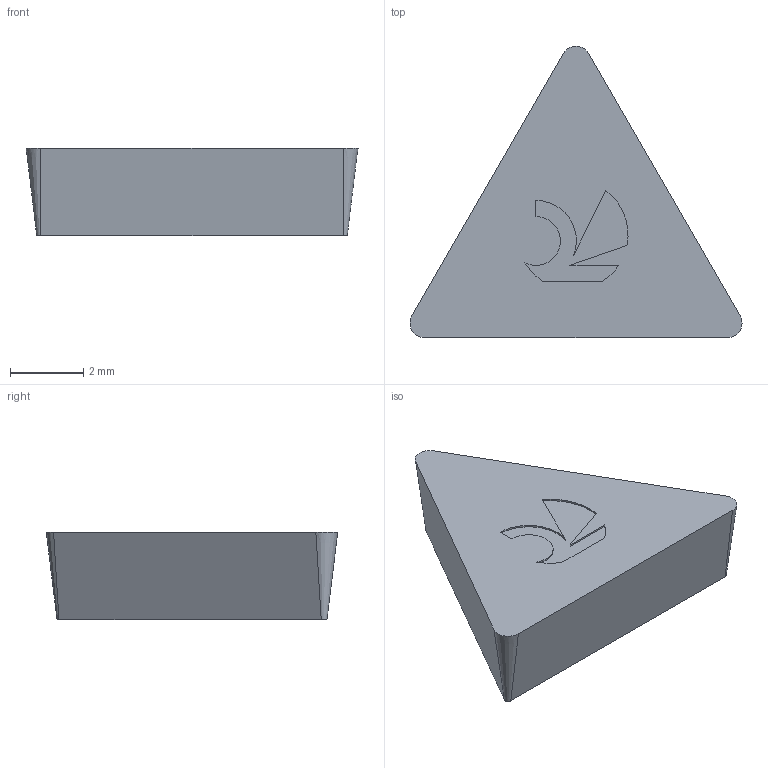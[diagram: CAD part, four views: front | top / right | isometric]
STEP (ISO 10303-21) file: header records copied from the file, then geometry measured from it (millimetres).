
FILE_DESCRIPTION(('no description'),'unknown implementation level');
FILE_NAME('solidjA2Ul2x9QZ7oazqvX_YaZcY9Vlw_1.STP',' ',('CIMSOURCE GmbH'),('CADClick - KiM GmbH - www.kimweb.de'),'unknown preprocess','ACIS','unknown authorization');
FILE_SCHEMA(('automotive_design'));
Length unit declared in the file: millimetre
Products named in the file (1): CUT
Bounding box: 9.04 x 7.94 x 2.38 mm (x, y, z)
Volume: 85.3 mm3; surface area: 135.7 mm2
Topology: 1 solids, 1 shells, 20 faces, 51 edges, 34 vertices
Faces by surface type: plane 11, cylinder 6, cone 3
Entity records: 1232 total; most frequent: DIRECTION 115, CARTESIAN_POINT 108, STYLED_ITEM 106, PRESENTATION_STYLE_ASSIGNMENT 106, COLOUR_RGB 106, ORIENTED_EDGE 102, EDGE_CURVE 51, CURVE_STYLE 51
